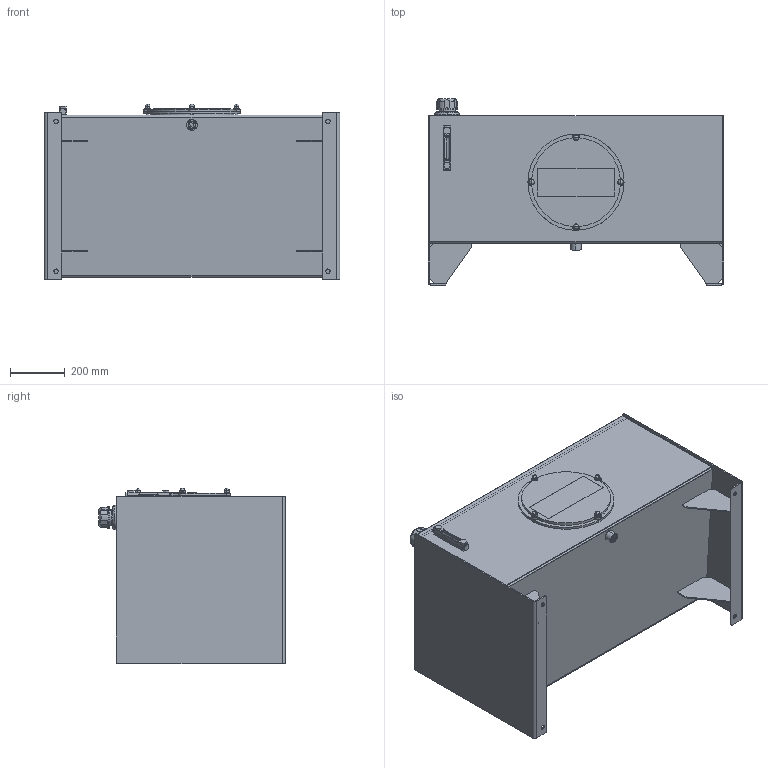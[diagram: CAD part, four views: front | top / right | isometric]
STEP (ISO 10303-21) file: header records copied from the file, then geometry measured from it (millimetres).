
FILE_DESCRIPTION (( 'STEP AP214' ), '1' );
FILE_NAME ('RDIN060-AFA.STEP', '2021-10-18T13:43:45', ( 'Windows User' ), ( '' ), 'SwSTEP 2.0', 'SolidWorks 2020', '' );
FILE_SCHEMA (( 'AUTOMOTIVE_DESIGN' ));
Length unit declared in the file: inch
Products named in the file (23): RDIN060-AFA-GUSSET2; FB-H008W; Weld Riser; WFZM010; QSTSBUR00080008; FB-S-W; RDIN060-AFA-TOP; BHS8100-15350; PLLG-05T; 8162-008-2_4534K45; FB-F008_FB-F-008; REC-M350C-4; NAC100-15-Z; RHJ-PLUG-016; RDIN060-AFA; S12; RDIN060-AFA-LEND; RDIN060-AFA-REND; REC-M350K; RDIN060-AFA-GUSSET1; FB-C-H_FB-H008W; RDIN060-AFA-BODY_RJIC020-BODY; RHJ-PLUG-200
Assembly tree (30 placements, depth 3):
  NAC100-15-Z
  RHJ-PLUG-016
  RDIN060-AFA
    RDIN060-AFA-BODY_RJIC020-BODY
    RDIN060-AFA-LEND
    RDIN060-AFA-REND
    RDIN060-AFA-TOP
    Weld Riser
    FB-H008W
      FB-F008_FB-F-008
      FB-S-W
      FB-C-H_FB-H008W
    BHS8100-15350  x4
    PLLG-05T
    REC-M350K
      REC-M350C-4
      WFZM010  x4
    S12
    8162-008-2_4534K45
    RDIN060-AFA-GUSSET1  x2
    RDIN060-AFA-GUSSET2  x2
    QSTSBUR00080008  x4
  RHJ-PLUG-200
Bounding box: 1076.31 x 679.07 x 640.32 mm (x, y, z)
Volume: 16013711.6 mm3; surface area: 6617328 mm2
Topology: 35 solids, 35 shells, 1062 faces, 2484 edges, 1490 vertices
Faces by surface type: plane 377, cylinder 359, torus 102, bspline 88, cone 88, sphere 48
Entity records: 33372 total; most frequent: CARTESIAN_POINT 9382, DIRECTION 4906, ORIENTED_EDGE 4524, EDGE_CURVE 2262, AXIS2_PLACEMENT_3D 1964, VERTEX_POINT 1360, EDGE_LOOP 1092, CIRCLE 1048
